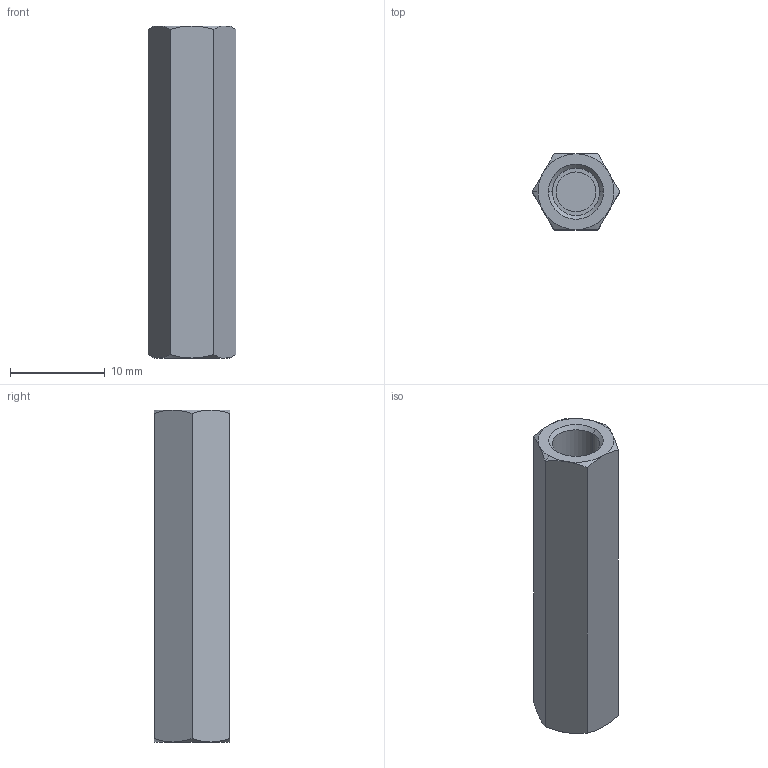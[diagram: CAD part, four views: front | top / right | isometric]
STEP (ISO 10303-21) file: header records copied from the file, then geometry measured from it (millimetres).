
FILE_DESCRIPTION (( 'STEP AP203' ), '1' );
FILE_NAME ('N0503.050-035-NP.step', '2025-02-27T14:44:56', ( '' ), ( '' ), 'SwSTEP 2.0', 'SolidWorks 2019', '' );
FILE_SCHEMA (( 'CONFIG_CONTROL_DESIGN' ));
Length unit declared in the file: millimetre
Products named in the file (1): N0503.050-035-NP
Bounding box: 9.24 x 8 x 35 mm (x, y, z)
Volume: 1504.6 mm3; surface area: 1416.6 mm2
Topology: 1 solids, 1 shells, 39 faces, 82 edges, 47 vertices
Faces by surface type: cone 20, plane 11, cylinder 8
Entity records: 1149 total; most frequent: CARTESIAN_POINT 271, DIRECTION 170, ORIENTED_EDGE 160, EDGE_CURVE 80, AXIS2_PLACEMENT_3D 74, VERTEX_POINT 47, EDGE_LOOP 43, FACE_OUTER_BOUND 39
